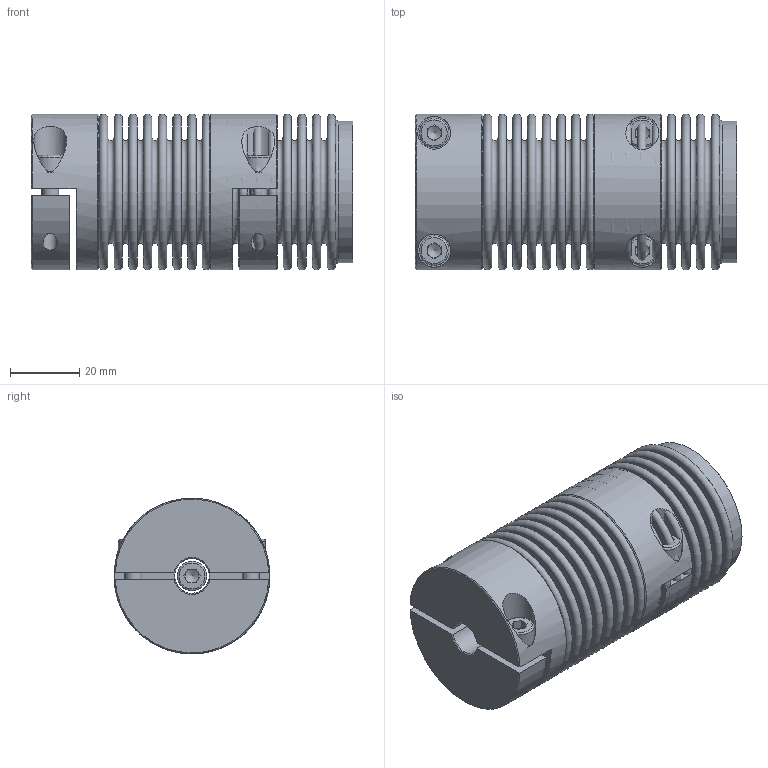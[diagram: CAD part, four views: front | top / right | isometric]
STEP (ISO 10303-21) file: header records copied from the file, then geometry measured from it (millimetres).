
FILE_DESCRIPTION( ( 'Unknown' ), '1' );
FILE_NAME( 'C:/Dokumente und Einstellungen/SKarpstein/Desktop/hp kbk/KB4H-18-71.stp', 'Unknown', ( 'Unknown' ), ( 'Unknown' ), 'XStep 1.0', 'Unknown', ' ' );
FILE_SCHEMA( ( 'automotive_design' ) );
Length unit declared in the file: millimetre
Products named in the file (5): Assem1; KN4H-18; Socket Head Cap Screw_DIN_DIN 912 M5 x 16 --- 16N_4; BL18_Standard_1
Bounding box: 92.92 x 45 x 45 mm (x, y, z)
Volume: 88700.8 mm3; surface area: 96012.7 mm2
Topology: 13 solids, 13 shells, 319 faces, 627 edges, 402 vertices
Faces by surface type: plane 172, torus 74, cylinder 48, cone 25
Full cylindrical faces by diameter (mm): 4.134 x6, 5 x5, 5.3 x6, 8.5 x5, 9.5 x6, 10 x3, 40.4 x4, 41 x4, 45 x3
Entity records: 3528 total; most frequent: CARTESIAN_POINT 712, DIRECTION 498, ORIENTED_EDGE 312, AXIS2_PLACEMENT_3D 229, EDGE_LOOP 210, FACE_OUTER_BOUND 163, EDGE_CURVE 156, VERTEX_POINT 133
